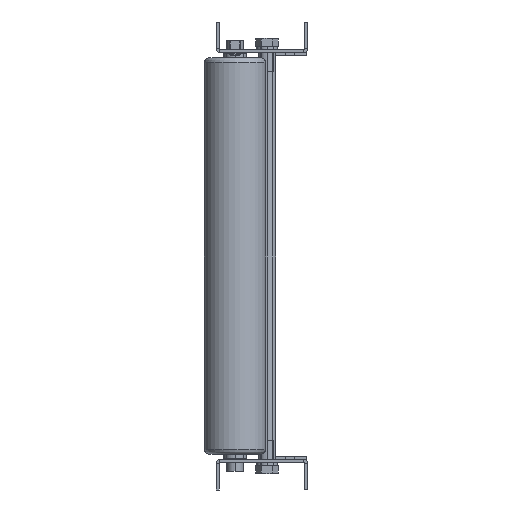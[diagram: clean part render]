
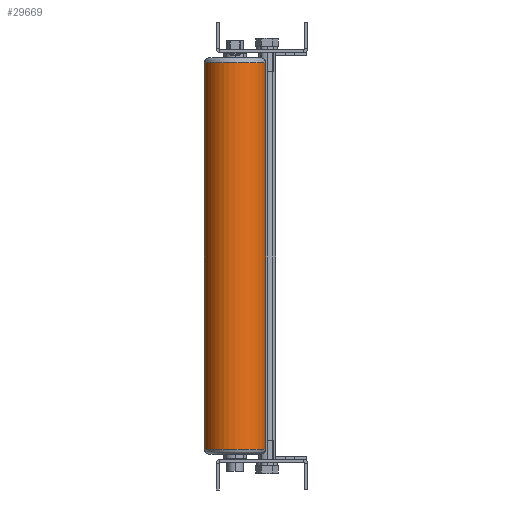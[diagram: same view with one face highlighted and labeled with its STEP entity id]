
A CAD part, left-side view. The second image highlights one B-rep face of the part: STEP entity #29669.
In plain terms, the highlighted cylindrical face has radius 30.25 mm (diameter 60.5 mm), a partial arc.
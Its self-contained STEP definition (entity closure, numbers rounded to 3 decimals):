
#104 = ORIENTED_EDGE ( 'NONE', *, *, #9219, .F. ) ;
#1147 = VERTEX_POINT ( 'NONE', #3370 ) ;
#2108 = AXIS2_PLACEMENT_3D ( 'NONE', #37956, #21782, #41423 ) ;
#2826 = CIRCLE ( 'NONE', #19359, 30.25 ) ;
#3370 = CARTESIAN_POINT ( 'NONE',  ( -1221.948, 205.524, -405. ) ) ;
#3843 = VECTOR ( 'NONE', #14694, 1000. ) ;
#4447 = FACE_OUTER_BOUND ( 'NONE', #24781, .T. ) ;
#4504 = VERTEX_POINT ( 'NONE', #29982 ) ;
#4890 = CYLINDRICAL_SURFACE ( 'NONE', #21333, 30.25 ) ;
#5093 = CARTESIAN_POINT ( 'NONE',  ( -1226.99, 235.35, -20. ) ) ;
#6824 = EDGE_CURVE ( 'NONE', #15901, #1147, #20683, .T. ) ;
#7763 = CARTESIAN_POINT ( 'NONE',  ( -1232.033, 265.177, -20. ) ) ;
#8587 = ORIENTED_EDGE ( 'NONE', *, *, #6824, .T. ) ;
#9219 = EDGE_CURVE ( 'NONE', #19107, #1147, #34122, .T. ) ;
#10063 = VECTOR ( 'NONE', #30907, 1000. ) ;
#10878 = EDGE_CURVE ( 'NONE', #19107, #4504, #2826, .T. ) ;
#14694 = DIRECTION ( 'NONE',  ( 0., 0., -1. ) ) ;
#15684 = CARTESIAN_POINT ( 'NONE',  ( -1221.948, 205.524, -25. ) ) ;
#15901 = VERTEX_POINT ( 'NONE', #21913 ) ;
#17788 = CARTESIAN_POINT ( 'NONE',  ( -1221.948, 205.524, -20. ) ) ;
#19107 = VERTEX_POINT ( 'NONE', #15684 ) ;
#19359 = AXIS2_PLACEMENT_3D ( 'NONE', #28062, #27839, #24599 ) ;
#20683 = CIRCLE ( 'NONE', #2108, 30.25 ) ;
#21333 = AXIS2_PLACEMENT_3D ( 'NONE', #5093, #21464, #40875 ) ;
#21464 = DIRECTION ( 'NONE',  ( 0., 0., -1. ) ) ;
#21782 = DIRECTION ( 'NONE',  ( 0., 0., 1. ) ) ;
#21913 = CARTESIAN_POINT ( 'NONE',  ( -1232.033, 265.177, -405. ) ) ;
#22902 = ORIENTED_EDGE ( 'NONE', *, *, #33933, .T. ) ;
#24599 = DIRECTION ( 'NONE',  ( -0.167, 0.986, 0. ) ) ;
#24781 = EDGE_LOOP ( 'NONE', ( #35323, #22902, #8587, #104 ) ) ;
#27839 = DIRECTION ( 'NONE',  ( 0., 0., -1. ) ) ;
#28062 = CARTESIAN_POINT ( 'NONE',  ( -1226.99, 235.35, -25. ) ) ;
#29669 = ADVANCED_FACE ( 'NONE', ( #4447 ), #4890, .T. ) ;
#29982 = CARTESIAN_POINT ( 'NONE',  ( -1232.033, 265.177, -25. ) ) ;
#30907 = DIRECTION ( 'NONE',  ( 0., 0., -1. ) ) ;
#31254 = LINE ( 'NONE', #7763, #3843 ) ;
#33933 = EDGE_CURVE ( 'NONE', #4504, #15901, #31254, .T. ) ;
#34122 = LINE ( 'NONE', #17788, #10063 ) ;
#35323 = ORIENTED_EDGE ( 'NONE', *, *, #10878, .T. ) ;
#37956 = CARTESIAN_POINT ( 'NONE',  ( -1226.99, 235.35, -405. ) ) ;
#40875 = DIRECTION ( 'NONE',  ( 0.167, -0.986, 0. ) ) ;
#41423 = DIRECTION ( 'NONE',  ( -0.167, 0.986, 0. ) ) ;
